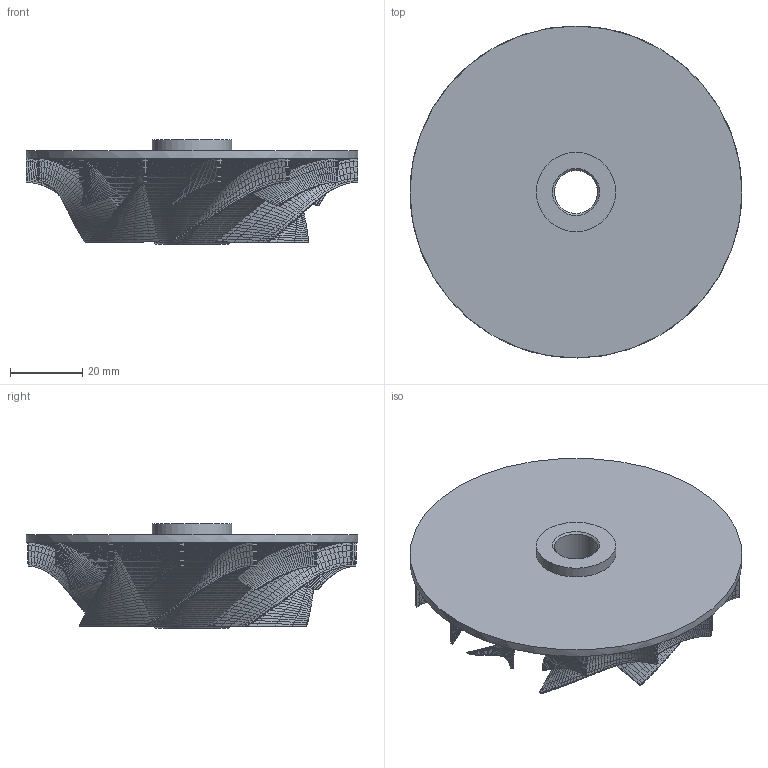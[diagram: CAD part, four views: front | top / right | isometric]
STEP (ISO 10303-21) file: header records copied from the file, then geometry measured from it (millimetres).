
FILE_DESCRIPTION(('Open CASCADE Model'),'2;1');
FILE_NAME('Open CASCADE Shape Model','2026-09-23T04:43:48',('Author'),( 'Open CASCADE'),'Open CASCADE STEP processor 7.9','Open CASCADE 7.9' ,'Unknown');
FILE_SCHEMA(('AUTOMOTIVE_DESIGN { 1 0 10303 214 1 1 1 1 }'));
Products named in the file (1): Open CASCADE STEP translator 7.9 1
Bounding box: 92 x 92 x 29 mm (x, y, z)
Volume: 63049.9 mm3; surface area: 24818.9 mm2
Topology: 1 solids, 1 shells, 9852 faces, 22146 edges, 12346 vertices
Faces by surface type: bspline 7105, cone 1586, plane 1158, cylinder 3
Full cylindrical faces by diameter (mm): 12 x1, 22 x1, 92 x1
Entity records: 573141 total; most frequent: CARTESIAN_POINT 191253, DIRECTION 46005, ORIENTED_EDGE 44264, PCURVE 44264, DEFINITIONAL_REPRESENTATION 44264, LINE 33644, VECTOR 33644, B_SPLINE_CURVE_WITH_KNOTS 28613
